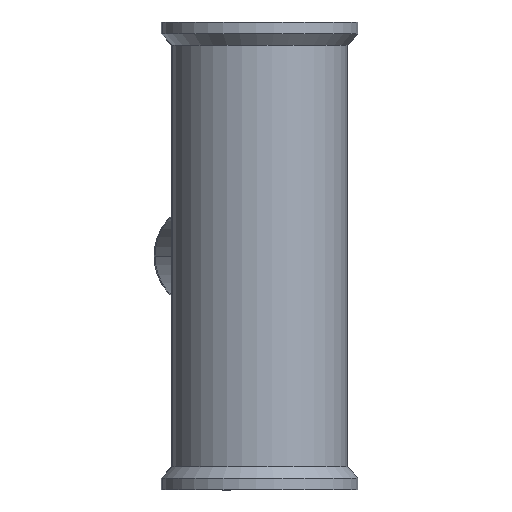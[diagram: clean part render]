
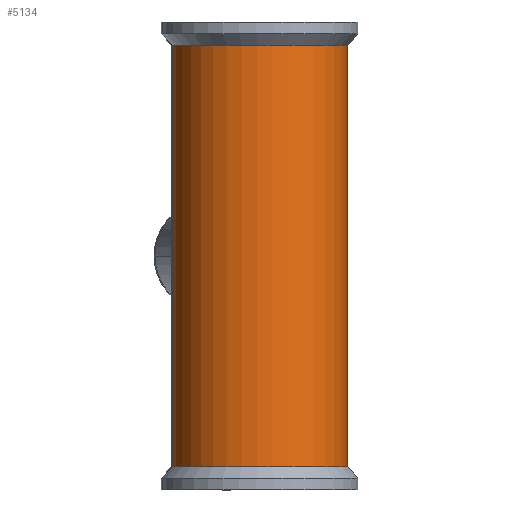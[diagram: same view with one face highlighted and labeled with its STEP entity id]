
A CAD part, front view. The second image highlights one B-rep face of the part: STEP entity #5134.
In plain terms, the highlighted cylindrical face has radius 22.5 mm (diameter 45 mm), a partial arc.
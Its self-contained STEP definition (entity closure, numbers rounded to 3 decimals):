
#128 = DIRECTION ( 'NONE',  ( 0., 0., -1. ) ) ;
#242 = CARTESIAN_POINT ( 'NONE',  ( 0., 0., -54. ) ) ;
#455 = CARTESIAN_POINT ( 'NONE',  ( -22.5, 0., 60. ) ) ;
#513 = CARTESIAN_POINT ( 'NONE',  ( 22.5, 0., 60. ) ) ;
#1086 = DIRECTION ( 'NONE',  ( -1., 0., 0. ) ) ;
#1187 = ORIENTED_EDGE ( 'NONE', *, *, #10938, .T. ) ;
#2336 = CIRCLE ( 'NONE', #3485, 22.5 ) ;
#2503 = CARTESIAN_POINT ( 'NONE',  ( -22.5, 0., 54. ) ) ;
#3091 = EDGE_LOOP ( 'NONE', ( #5495, #3385, #1187, #9538 ) ) ;
#3364 = CYLINDRICAL_SURFACE ( 'NONE', #8239, 22.5 ) ;
#3385 = ORIENTED_EDGE ( 'NONE', *, *, #4252, .T. ) ;
#3451 = DIRECTION ( 'NONE',  ( -1., 0., 0. ) ) ;
#3485 = AXIS2_PLACEMENT_3D ( 'NONE', #242, #128, #1086 ) ;
#3893 = CARTESIAN_POINT ( 'NONE',  ( 22.5, 0., -54. ) ) ;
#4184 = DIRECTION ( 'NONE',  ( 0., 0., -1. ) ) ;
#4252 = EDGE_CURVE ( 'NONE', #11001, #5616, #6473, .T. ) ;
#4362 = DIRECTION ( 'NONE',  ( 0., 0., -1. ) ) ;
#4629 = EDGE_CURVE ( 'NONE', #11001, #5044, #8657, .T. ) ;
#4812 = VECTOR ( 'NONE', #9261, 1000. ) ;
#5044 = VERTEX_POINT ( 'NONE', #3893 ) ;
#5134 = ADVANCED_FACE ( 'NONE', ( #8890 ), #3364, .T. ) ;
#5495 = ORIENTED_EDGE ( 'NONE', *, *, #4629, .F. ) ;
#5616 = VERTEX_POINT ( 'NONE', #2503 ) ;
#5772 = CARTESIAN_POINT ( 'NONE',  ( 22.5, 0., 54. ) ) ;
#6282 = AXIS2_PLACEMENT_3D ( 'NONE', #7919, #10456, #3451 ) ;
#6473 = CIRCLE ( 'NONE', #6282, 22.5 ) ;
#6806 = EDGE_CURVE ( 'NONE', #5044, #10994, #2336, .T. ) ;
#7126 = CARTESIAN_POINT ( 'NONE',  ( 0., 0., 60. ) ) ;
#7885 = DIRECTION ( 'NONE',  ( -1., 0., 0. ) ) ;
#7919 = CARTESIAN_POINT ( 'NONE',  ( 0., 0., 54. ) ) ;
#8239 = AXIS2_PLACEMENT_3D ( 'NONE', #7126, #4362, #7885 ) ;
#8488 = CARTESIAN_POINT ( 'NONE',  ( -22.5, 0., -54. ) ) ;
#8657 = LINE ( 'NONE', #513, #11562 ) ;
#8890 = FACE_OUTER_BOUND ( 'NONE', #3091, .T. ) ;
#9261 = DIRECTION ( 'NONE',  ( 0., 0., -1. ) ) ;
#9538 = ORIENTED_EDGE ( 'NONE', *, *, #6806, .F. ) ;
#10456 = DIRECTION ( 'NONE',  ( 0., 0., -1. ) ) ;
#10938 = EDGE_CURVE ( 'NONE', #5616, #10994, #11216, .T. ) ;
#10994 = VERTEX_POINT ( 'NONE', #8488 ) ;
#11001 = VERTEX_POINT ( 'NONE', #5772 ) ;
#11216 = LINE ( 'NONE', #455, #4812 ) ;
#11562 = VECTOR ( 'NONE', #4184, 1000. ) ;
